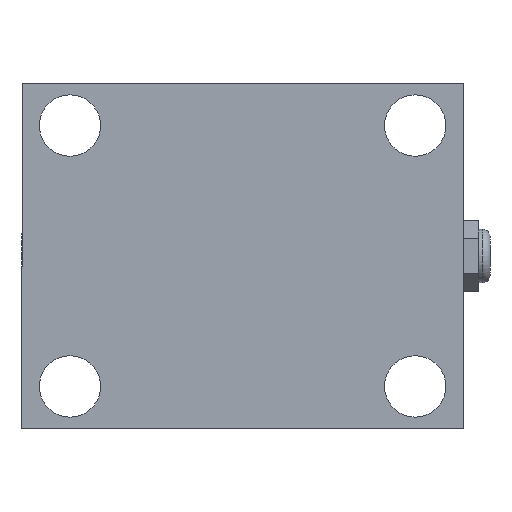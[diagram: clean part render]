
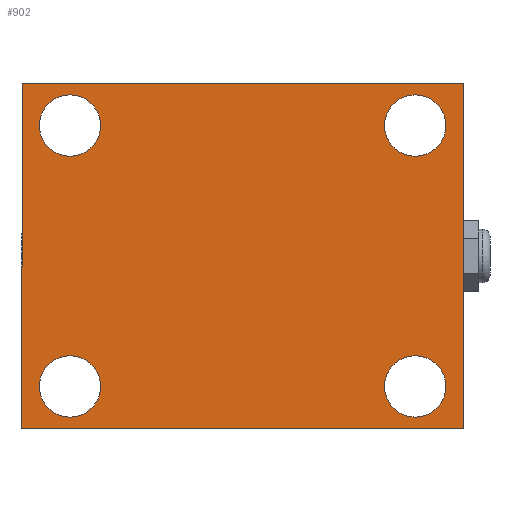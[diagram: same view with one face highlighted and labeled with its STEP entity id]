
A CAD part, front view. The second image highlights one B-rep face of the part: STEP entity #902.
In plain terms, the highlighted planar face has unit normal (0, -1, 0).
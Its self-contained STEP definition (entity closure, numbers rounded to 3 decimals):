
#17 = CARTESIAN_POINT ( 'NONE',  ( -45., 0., 26. ) ) ;
#27 = DIRECTION ( 'NONE',  ( 0., 1., 0. ) ) ;
#44 = EDGE_CURVE ( 'NONE', #468, #1046, #525, .T. ) ;
#50 = DIRECTION ( 'NONE',  ( 0., 0., 1. ) ) ;
#53 = FACE_BOUND ( 'NONE', #1036, .T. ) ;
#99 = ORIENTED_EDGE ( 'NONE', *, *, #669, .T. ) ;
#104 = AXIS2_PLACEMENT_3D ( 'NONE', #252, #1042, #238 ) ;
#159 = VECTOR ( 'NONE', #881, 1000. ) ;
#160 = EDGE_CURVE ( 'NONE', #874, #859, #171, .T. ) ;
#165 = CARTESIAN_POINT ( 'NONE',  ( -45., 0., -34. ) ) ;
#171 = LINE ( 'NONE', #981, #498 ) ;
#174 = DIRECTION ( 'NONE',  ( 0., 0., 1. ) ) ;
#192 = LINE ( 'NONE', #1072, #754 ) ;
#213 = AXIS2_PLACEMENT_3D ( 'NONE', #643, #416, #311 ) ;
#218 = DIRECTION ( 'NONE',  ( 0., 0., 1. ) ) ;
#220 = CARTESIAN_POINT ( 'NONE',  ( -57.5, 0., -45. ) ) ;
#238 = DIRECTION ( 'NONE',  ( 0., 0., 1. ) ) ;
#252 = CARTESIAN_POINT ( 'NONE',  ( 45., 0., 34. ) ) ;
#253 = ORIENTED_EDGE ( 'NONE', *, *, #1427, .T. ) ;
#262 = VERTEX_POINT ( 'NONE', #1176 ) ;
#263 = FACE_BOUND ( 'NONE', #388, .T. ) ;
#291 = DIRECTION ( 'NONE',  ( 0., 0., 1. ) ) ;
#311 = DIRECTION ( 'NONE',  ( 0., 0., 1. ) ) ;
#335 = FACE_BOUND ( 'NONE', #1432, .T. ) ;
#338 = CIRCLE ( 'NONE', #213, 8. ) ;
#348 = AXIS2_PLACEMENT_3D ( 'NONE', #1151, #370, #1163 ) ;
#365 = CARTESIAN_POINT ( 'NONE',  ( 0., 0., 0. ) ) ;
#370 = DIRECTION ( 'NONE',  ( 0., 1., 0. ) ) ;
#388 = EDGE_LOOP ( 'NONE', ( #682, #491 ) ) ;
#395 = DIRECTION ( 'NONE',  ( 0., 1., 0. ) ) ;
#401 = AXIS2_PLACEMENT_3D ( 'NONE', #165, #1171, #514 ) ;
#416 = DIRECTION ( 'NONE',  ( 0., 1., 0. ) ) ;
#420 = FACE_BOUND ( 'NONE', #1096, .T. ) ;
#436 = CARTESIAN_POINT ( 'NONE',  ( 57.5, 0., 45. ) ) ;
#459 = LINE ( 'NONE', #1097, #159 ) ;
#468 = VERTEX_POINT ( 'NONE', #871 ) ;
#481 = EDGE_CURVE ( 'NONE', #559, #874, #1396, .T. ) ;
#491 = ORIENTED_EDGE ( 'NONE', *, *, #839, .T. ) ;
#498 = VECTOR ( 'NONE', #291, 1000. ) ;
#499 = CARTESIAN_POINT ( 'NONE',  ( -57.5, 0., -45. ) ) ;
#504 = AXIS2_PLACEMENT_3D ( 'NONE', #1420, #395, #174 ) ;
#507 = VERTEX_POINT ( 'NONE', #1337 ) ;
#514 = DIRECTION ( 'NONE',  ( 0., 0., 1. ) ) ;
#525 = CIRCLE ( 'NONE', #401, 8. ) ;
#531 = EDGE_CURVE ( 'NONE', #1269, #507, #883, .T. ) ;
#556 = CARTESIAN_POINT ( 'NONE',  ( 45., 0., -34. ) ) ;
#559 = VERTEX_POINT ( 'NONE', #1369 ) ;
#570 = ORIENTED_EDGE ( 'NONE', *, *, #44, .T. ) ;
#587 = EDGE_LOOP ( 'NONE', ( #1311, #964, #1301, #784 ) ) ;
#601 = AXIS2_PLACEMENT_3D ( 'NONE', #556, #1148, #1058 ) ;
#643 = CARTESIAN_POINT ( 'NONE',  ( -45., 0., 34. ) ) ;
#669 = EDGE_CURVE ( 'NONE', #507, #1269, #1354, .T. ) ;
#682 = ORIENTED_EDGE ( 'NONE', *, *, #1011, .T. ) ;
#703 = ORIENTED_EDGE ( 'NONE', *, *, #1091, .T. ) ;
#725 = VECTOR ( 'NONE', #1230, 1000. ) ;
#738 = CARTESIAN_POINT ( 'NONE',  ( -45., 0., -26. ) ) ;
#754 = VECTOR ( 'NONE', #1189, 1000. ) ;
#784 = ORIENTED_EDGE ( 'NONE', *, *, #481, .F. ) ;
#793 = CARTESIAN_POINT ( 'NONE',  ( 45., 0., 34. ) ) ;
#839 = EDGE_CURVE ( 'NONE', #1154, #262, #1431, .T. ) ;
#847 = EDGE_CURVE ( 'NONE', #1046, #468, #873, .T. ) ;
#852 = CARTESIAN_POINT ( 'NONE',  ( 45., 0., -34. ) ) ;
#858 = CARTESIAN_POINT ( 'NONE',  ( 45., 0., -42. ) ) ;
#859 = VERTEX_POINT ( 'NONE', #1147 ) ;
#862 = AXIS2_PLACEMENT_3D ( 'NONE', #852, #1393, #50 ) ;
#871 = CARTESIAN_POINT ( 'NONE',  ( -45., 0., -42. ) ) ;
#873 = CIRCLE ( 'NONE', #348, 8. ) ;
#874 = VERTEX_POINT ( 'NONE', #499 ) ;
#880 = AXIS2_PLACEMENT_3D ( 'NONE', #793, #907, #218 ) ;
#881 = DIRECTION ( 'NONE',  ( 0., 0., -1. ) ) ;
#883 = CIRCLE ( 'NONE', #880, 8. ) ;
#900 = CARTESIAN_POINT ( 'NONE',  ( -45., 0., 42. ) ) ;
#902 = ADVANCED_FACE ( 'NONE', ( #263, #53, #420, #335, #1248 ), #1359, .F. ) ;
#907 = DIRECTION ( 'NONE',  ( 0., 1., 0. ) ) ;
#922 = DIRECTION ( 'NONE',  ( 0., 0., 1. ) ) ;
#964 = ORIENTED_EDGE ( 'NONE', *, *, #1059, .F. ) ;
#981 = CARTESIAN_POINT ( 'NONE',  ( -57.5, 0., -45. ) ) ;
#1011 = EDGE_CURVE ( 'NONE', #262, #1154, #1334, .T. ) ;
#1036 = EDGE_LOOP ( 'NONE', ( #1286, #99 ) ) ;
#1042 = DIRECTION ( 'NONE',  ( 0., 1., 0. ) ) ;
#1046 = VERTEX_POINT ( 'NONE', #738 ) ;
#1058 = DIRECTION ( 'NONE',  ( 0., 0., 1. ) ) ;
#1059 = EDGE_CURVE ( 'NONE', #859, #1222, #192, .T. ) ;
#1067 = EDGE_CURVE ( 'NONE', #1222, #559, #459, .T. ) ;
#1072 = CARTESIAN_POINT ( 'NONE',  ( -57.5, 0., 45. ) ) ;
#1091 = EDGE_CURVE ( 'NONE', #1254, #1370, #1429, .T. ) ;
#1096 = EDGE_LOOP ( 'NONE', ( #703, #253 ) ) ;
#1097 = CARTESIAN_POINT ( 'NONE',  ( 57.5, 0., -45. ) ) ;
#1109 = AXIS2_PLACEMENT_3D ( 'NONE', #365, #27, #922 ) ;
#1147 = CARTESIAN_POINT ( 'NONE',  ( -57.5, 0., 45. ) ) ;
#1148 = DIRECTION ( 'NONE',  ( 0., 1., 0. ) ) ;
#1151 = CARTESIAN_POINT ( 'NONE',  ( -45., 0., -34. ) ) ;
#1154 = VERTEX_POINT ( 'NONE', #858 ) ;
#1163 = DIRECTION ( 'NONE',  ( 0., 0., 1. ) ) ;
#1171 = DIRECTION ( 'NONE',  ( 0., 1., 0. ) ) ;
#1176 = CARTESIAN_POINT ( 'NONE',  ( 45., 0., -26. ) ) ;
#1189 = DIRECTION ( 'NONE',  ( 1., 0., 0. ) ) ;
#1219 = CARTESIAN_POINT ( 'NONE',  ( 45., 0., 42. ) ) ;
#1222 = VERTEX_POINT ( 'NONE', #436 ) ;
#1230 = DIRECTION ( 'NONE',  ( -1., 0., 0. ) ) ;
#1240 = ORIENTED_EDGE ( 'NONE', *, *, #847, .T. ) ;
#1248 = FACE_OUTER_BOUND ( 'NONE', #587, .T. ) ;
#1254 = VERTEX_POINT ( 'NONE', #900 ) ;
#1269 = VERTEX_POINT ( 'NONE', #1219 ) ;
#1286 = ORIENTED_EDGE ( 'NONE', *, *, #531, .T. ) ;
#1301 = ORIENTED_EDGE ( 'NONE', *, *, #160, .F. ) ;
#1311 = ORIENTED_EDGE ( 'NONE', *, *, #1067, .F. ) ;
#1334 = CIRCLE ( 'NONE', #862, 8. ) ;
#1337 = CARTESIAN_POINT ( 'NONE',  ( 45., 0., 26. ) ) ;
#1354 = CIRCLE ( 'NONE', #104, 8. ) ;
#1359 = PLANE ( 'NONE',  #1109 ) ;
#1369 = CARTESIAN_POINT ( 'NONE',  ( 57.5, 0., -45. ) ) ;
#1370 = VERTEX_POINT ( 'NONE', #17 ) ;
#1393 = DIRECTION ( 'NONE',  ( 0., 1., 0. ) ) ;
#1396 = LINE ( 'NONE', #220, #725 ) ;
#1420 = CARTESIAN_POINT ( 'NONE',  ( -45., 0., 34. ) ) ;
#1427 = EDGE_CURVE ( 'NONE', #1370, #1254, #338, .T. ) ;
#1429 = CIRCLE ( 'NONE', #504, 8. ) ;
#1431 = CIRCLE ( 'NONE', #601, 8. ) ;
#1432 = EDGE_LOOP ( 'NONE', ( #1240, #570 ) ) ;
